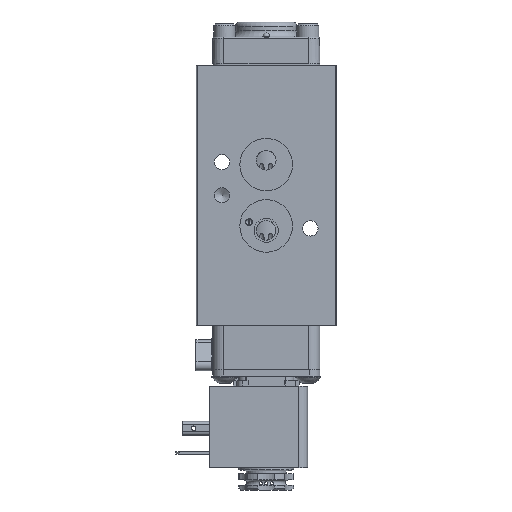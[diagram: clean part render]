
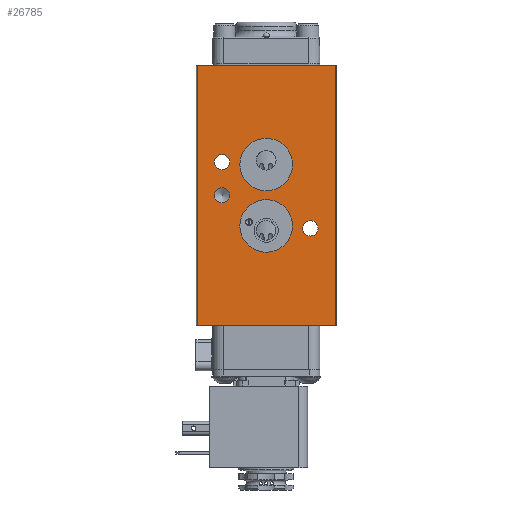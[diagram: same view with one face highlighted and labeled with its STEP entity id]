
A CAD part, front view. The second image highlights one B-rep face of the part: STEP entity #26785.
In plain terms, the highlighted planar face has unit normal (0, -1, 0).
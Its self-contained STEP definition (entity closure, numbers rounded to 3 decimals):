
#1465=LINE('',#47259,#3121);
#1713=LINE('',#48839,#3369);
#1714=LINE('',#49415,#3370);
#1717=LINE('',#49421,#3373);
#3121=VECTOR('',#35852,5.001);
#3369=VECTOR('',#36448,5.001);
#3370=VECTOR('',#36643,9.421);
#3373=VECTOR('',#36652,9.421);
#4477=PLANE('',#29597);
#4969=FACE_BOUND('',#8987,.T.);
#4970=FACE_BOUND('',#8988,.T.);
#4971=FACE_BOUND('',#8989,.T.);
#4972=FACE_BOUND('',#8990,.T.);
#4973=FACE_BOUND('',#8991,.T.);
#6971=FACE_OUTER_BOUND('',#8986,.T.);
#8986=EDGE_LOOP('',(#22885,#22886,#22887,#22888));
#8987=EDGE_LOOP('',(#22889));
#8988=EDGE_LOOP('',(#22890));
#8989=EDGE_LOOP('',(#22891));
#8990=EDGE_LOOP('',(#22892));
#8991=EDGE_LOOP('',(#22893));
#10411=CIRCLE('',#29559,0.953);
#10413=CIRCLE('',#29563,0.953);
#10415=CIRCLE('',#29568,0.276);
#10416=CIRCLE('',#29570,0.278);
#10417=CIRCLE('',#29572,0.278);
#12375=VERTEX_POINT('',#47255);
#12377=VERTEX_POINT('',#47258);
#12660=VERTEX_POINT('',#48831);
#12662=VERTEX_POINT('',#48837);
#12697=VERTEX_POINT('',#49368);
#12699=VERTEX_POINT('',#49374);
#12701=VERTEX_POINT('',#49381);
#12702=VERTEX_POINT('',#49384);
#12703=VERTEX_POINT('',#49387);
#15683=EDGE_CURVE('',#12377,#12375,#1465,.T.);
#16084=EDGE_CURVE('',#12660,#12662,#1713,.T.);
#16127=EDGE_CURVE('',#12697,#12697,#10411,.T.);
#16129=EDGE_CURVE('',#12699,#12699,#10413,.T.);
#16131=EDGE_CURVE('',#12701,#12701,#10415,.T.);
#16132=EDGE_CURVE('',#12702,#12702,#10416,.T.);
#16133=EDGE_CURVE('',#12703,#12703,#10417,.T.);
#16141=EDGE_CURVE('',#12660,#12375,#1714,.T.);
#16144=EDGE_CURVE('',#12377,#12662,#1717,.T.);
#22885=ORIENTED_EDGE('',*,*,#16141,.F.);
#22886=ORIENTED_EDGE('',*,*,#16084,.T.);
#22887=ORIENTED_EDGE('',*,*,#16144,.F.);
#22888=ORIENTED_EDGE('',*,*,#15683,.T.);
#22889=ORIENTED_EDGE('',*,*,#16127,.T.);
#22890=ORIENTED_EDGE('',*,*,#16129,.T.);
#22891=ORIENTED_EDGE('',*,*,#16131,.T.);
#22892=ORIENTED_EDGE('',*,*,#16132,.T.);
#22893=ORIENTED_EDGE('',*,*,#16133,.T.);
#26785=ADVANCED_FACE('',(#6971,#4969,#4970,#4971,#4972,#4973),#4477,.T.);
#29559=AXIS2_PLACEMENT_3D('',#49369,#36577,#36578);
#29563=AXIS2_PLACEMENT_3D('',#49375,#36585,#36586);
#29568=AXIS2_PLACEMENT_3D('',#49382,#36595,#36596);
#29570=AXIS2_PLACEMENT_3D('',#49385,#36599,#36600);
#29572=AXIS2_PLACEMENT_3D('',#49388,#36603,#36604);
#29597=AXIS2_PLACEMENT_3D('',#49424,#36657,#36658);
#35852=DIRECTION('',(-1.,0.,0.));
#36448=DIRECTION('',(1.,0.,0.));
#36577=DIRECTION('center_axis',(0.,1.,0.));
#36578=DIRECTION('ref_axis',(-1.,0.,0.));
#36585=DIRECTION('center_axis',(0.,1.,0.));
#36586=DIRECTION('ref_axis',(-1.,0.,0.));
#36595=DIRECTION('center_axis',(0.,1.,0.));
#36596=DIRECTION('ref_axis',(1.,0.,0.));
#36599=DIRECTION('center_axis',(0.,1.,0.));
#36600=DIRECTION('ref_axis',(1.,0.,0.));
#36603=DIRECTION('center_axis',(0.,1.,0.));
#36604=DIRECTION('ref_axis',(1.,0.,0.));
#36643=DIRECTION('',(0.,0.,1.));
#36652=DIRECTION('',(0.,0.,-1.));
#36657=DIRECTION('center_axis',(0.,-1.,0.));
#36658=DIRECTION('ref_axis',(0.,0.,-1.));
#47255=CARTESIAN_POINT('',(-2.5,-1.636,4.71));
#47258=CARTESIAN_POINT('',(2.5,-1.636,4.71));
#47259=CARTESIAN_POINT('',(-2.54,-1.636,4.71));
#48831=CARTESIAN_POINT('',(-2.5,-1.636,-4.71));
#48837=CARTESIAN_POINT('',(2.5,-1.636,-4.71));
#48839=CARTESIAN_POINT('',(-2.54,-1.636,-4.71));
#49368=CARTESIAN_POINT('',(0.953,-1.636,1.111));
#49369=CARTESIAN_POINT('Origin',(0.,-1.636,1.111));
#49374=CARTESIAN_POINT('',(0.953,-1.636,-1.111));
#49375=CARTESIAN_POINT('Origin',(0.,-1.636,-1.111));
#49381=CARTESIAN_POINT('',(-1.325,-1.636,-0.001));
#49382=CARTESIAN_POINT('Origin',(-1.6,-1.636,-0.001));
#49384=CARTESIAN_POINT('',(1.322,-1.636,-1.2));
#49385=CARTESIAN_POINT('Origin',(1.6,-1.636,-1.2));
#49387=CARTESIAN_POINT('',(-1.878,-1.636,1.2));
#49388=CARTESIAN_POINT('Origin',(-1.6,-1.636,1.2));
#49415=CARTESIAN_POINT('',(-2.5,-1.636,0.));
#49421=CARTESIAN_POINT('',(2.5,-1.636,0.));
#49424=CARTESIAN_POINT('Origin',(2.54,-1.636,0.));
